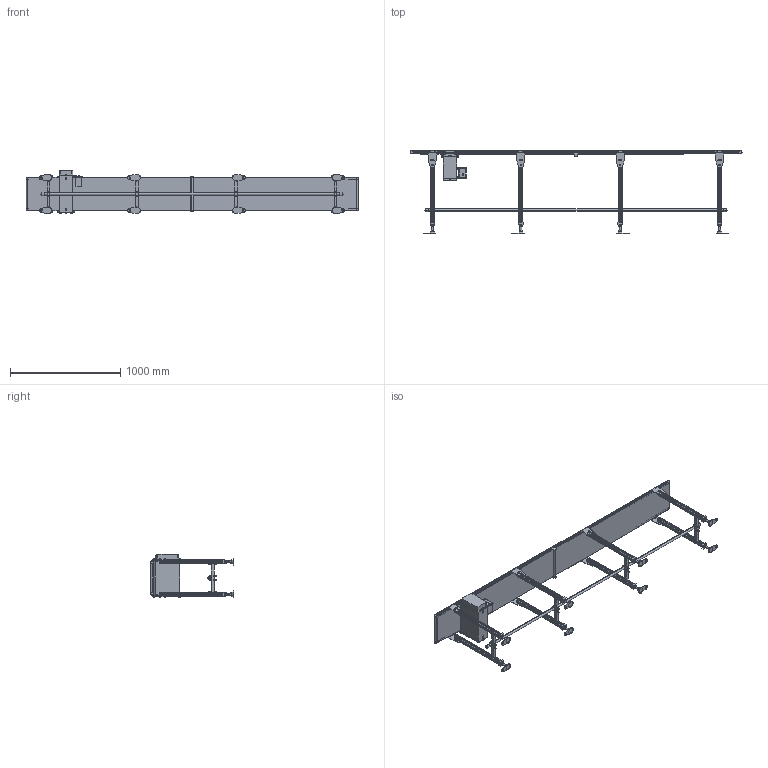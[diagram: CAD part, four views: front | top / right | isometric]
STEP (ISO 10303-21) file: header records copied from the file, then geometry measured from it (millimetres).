
FILE_DESCRIPTION( (''), '2;1');
FILE_NAME ('MFB-SD2-306-300-300-K-180-O.stp','2025-02-17T13:29:02',(''),(''),'spGate 20.6.2 (****-****-****-****)','','');
FILE_SCHEMA (('AUTOMOTIVE_DESIGN'));
Length unit declared in the file: millimetre
Products named in the file (52): NewModel; MFB-SD2-300-3000; TEMP_X_T-prt0; TEMP_X_T-prt1; TEMP_X_T-prt2; TEMP_X_T-prt3; TEMP_X_T-prt4; TEMP_X_T-prt5; TEMP_X_T-prt6; TEMP_X_T-prt7; TEMP_X_T-prt8; TEMP_X_T-prt9; TEMP_X_T-prt10; TEMP_X_T-prt11; TEMP_X_T-prt12; TEMP_X_T-prt13; TEMP_X_T-prt14; TEMP_X_T-prt15; TEMP_X_T-prt16; TEMP_X_T-prt17; TEMP_X_T-prt18; TEMP_X_T-prt19; TEMP_X_T-prt20; TEMP_X_T-prt21; TEMP_X_T-prt22; TEMP_X_T-prt23; TEMP_X_T-prt24; TEMP_X_T-prt25; TEMP_X_T-prt26; TEMP_X_T-prt27; TEMP_X_T-prt28; TEMP_X_T-prt29; TEMP_X_T-prt30; TEMP_X_T-prt31; TEMP_X_T-prt32; TEMP_X_T-prt33; TEMP_X_T-prt34; TEMP_X_T-prt35; TEMP_X_T-prt36; TEMP_X_T-prt37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
Assembly tree (51 placements, depth 3):
  NewModel
    MFB-SD2-300-3000
      TEMP_X_T-prt0
      TEMP_X_T-prt1
      TEMP_X_T-prt2
      TEMP_X_T-prt3
      TEMP_X_T-prt4
      TEMP_X_T-prt5
      TEMP_X_T-prt6
      TEMP_X_T-prt7
      TEMP_X_T-prt8
      TEMP_X_T-prt9
      TEMP_X_T-prt10
      TEMP_X_T-prt11
      TEMP_X_T-prt12
      TEMP_X_T-prt13
      TEMP_X_T-prt14
      TEMP_X_T-prt15
      TEMP_X_T-prt16
      TEMP_X_T-prt17
      TEMP_X_T-prt18
      TEMP_X_T-prt19
      TEMP_X_T-prt20
      TEMP_X_T-prt21
      TEMP_X_T-prt22
      TEMP_X_T-prt23
      TEMP_X_T-prt24
      TEMP_X_T-prt25
      TEMP_X_T-prt26
      TEMP_X_T-prt27
      TEMP_X_T-prt28
      TEMP_X_T-prt29
      TEMP_X_T-prt30
      TEMP_X_T-prt31
      TEMP_X_T-prt32
      TEMP_X_T-prt33
      TEMP_X_T-prt34
      TEMP_X_T-prt35
      TEMP_X_T-prt36
      TEMP_X_T-prt37
      TEMP_X_T-prt38
      TEMP_X_T-prt39
      TEMP_X_T-prt40
      TEMP_X_T-prt41
      TEMP_X_T-prt42
      TEMP_X_T-prt43
      TEMP_X_T-prt44
      TEMP_X_T-prt45
      TEMP_X_T-prt46
      TEMP_X_T-prt47
      TEMP_X_T-prt48
      TEMP_X_T-prt49
Bounding box: 3005.2 x 752.6 x 393.5 mm (x, y, z)
Volume: 23038330.9 mm3; surface area: 8292703.2 mm2
Topology: 50 solids, 50 shells, 2720 faces, 6942 edges, 4492 vertices
Faces by surface type: plane 2188, cylinder 456, bspline 76
Entity records: 139205 total; most frequent: CARTESIAN_POINT 15905, ORIENTED_EDGE 13868, DIRECTION 13104, COLOUR_RGB 9704, PRESENTATION_STYLE_ASSIGNMENT 9704, STYLED_ITEM 9704, EDGE_CURVE 6934, DRAUGHTING_PRE_DEFINED_CURVE_FONT 6934
